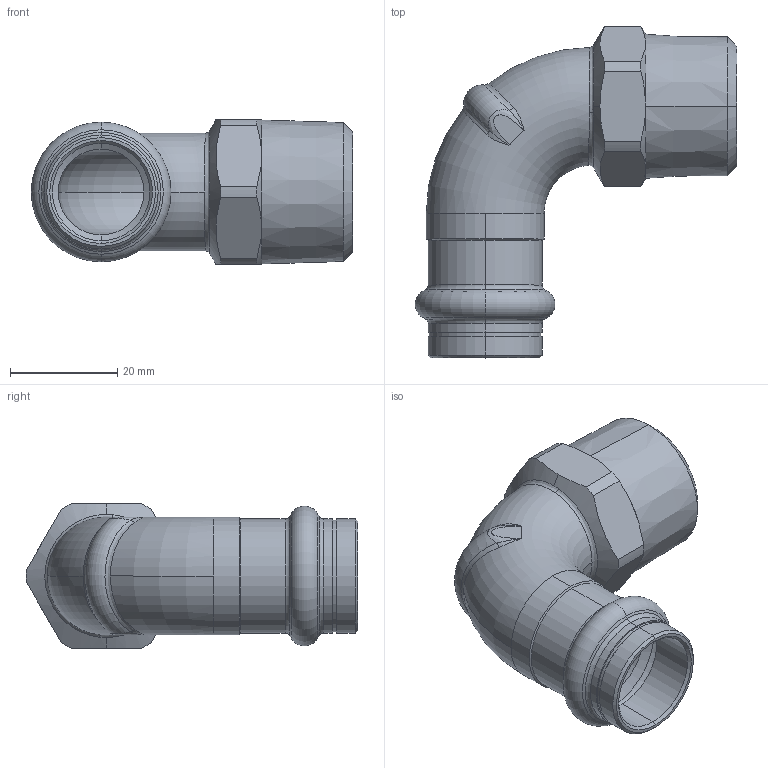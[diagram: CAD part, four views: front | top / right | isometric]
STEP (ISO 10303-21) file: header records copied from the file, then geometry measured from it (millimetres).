
FILE_DESCRIPTION (( 'STEP AP203' ), '1' );
FILE_NAME ('SP4001G Ø18 3-4.STEP', '2017-04-28T08:40:26', ( '' ), ( '' ), 'SwSTEP 2.0', 'SolidWorks 2016', '' );
FILE_SCHEMA (( 'CONFIG_CONTROL_DESIGN' ));
Length unit declared in the file: millimetre
Products named in the file (1): SP4001G Ø18 3-4
Bounding box: 60.05 x 62 x 27 mm (x, y, z)
Volume: 15787.8 mm3; surface area: 12049.9 mm2
Topology: 1 solids, 1 shells, 92 faces, 217 edges, 130 vertices
Faces by surface type: cylinder 26, cone 26, plane 17, torus 13, bspline 10
Entity records: 4120 total; most frequent: CARTESIAN_POINT 1985, DIRECTION 438, ORIENTED_EDGE 434, EDGE_CURVE 217, AXIS2_PLACEMENT_3D 188, VERTEX_POINT 130, CIRCLE 105, EDGE_LOOP 97
